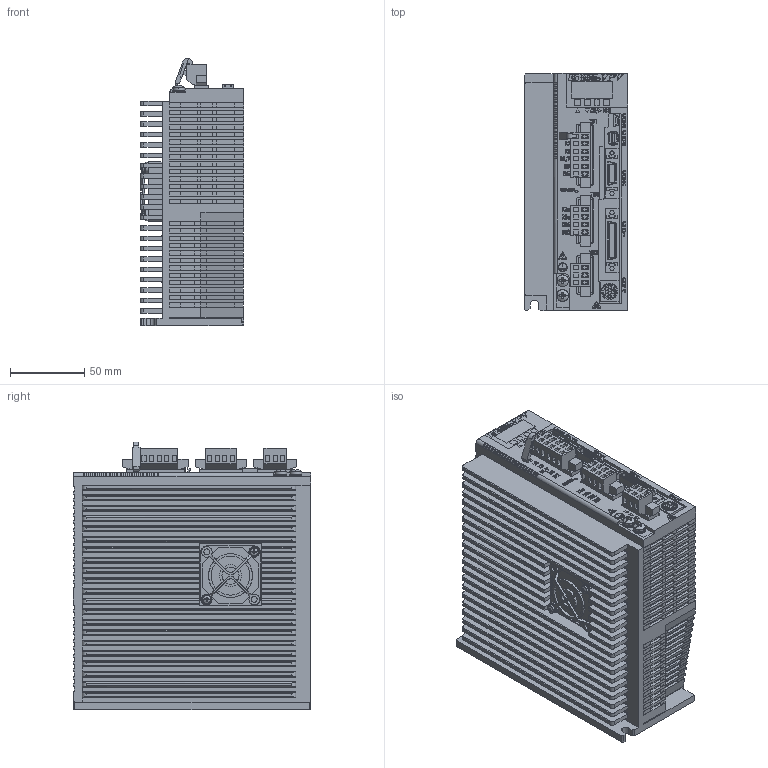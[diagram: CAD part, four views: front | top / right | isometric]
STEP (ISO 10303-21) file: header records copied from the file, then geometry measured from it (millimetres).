
FILE_DESCRIPTION (( 'STEP AP203' ), '1' );
FILE_NAME ('NCR-VA_Series(801)#SX-05490_STO.STEP', '2026-05-27T08:26:37', ( '' ), ( '' ), 'SwSTEP 2.0', 'SolidWorks 2024', '' );
FILE_SCHEMA (( 'CONFIG_CONTROL_DESIGN' ));
Products named in the file (1): NCR-VA_Series(801)#SX-05490_STO
Bounding box: 70 x 160 x 180.47 mm (x, y, z)
Volume: 1514848.1 mm3; surface area: 214783.7 mm2
Topology: 5 solids, 7 shells, 4661 faces, 13032 edges, 8631 vertices
Faces by surface type: plane 3608, cylinder 563, bspline 424, cone 38, torus 20, sphere 8
Entity records: 169216 total; most frequent: CARTESIAN_POINT 51286, ORIENTED_EDGE 26048, DIRECTION 21728, EDGE_CURVE 13024, VECTOR 10676, LINE 10676, VERTEX_POINT 8631, AXIS2_PLACEMENT_3D 5526
